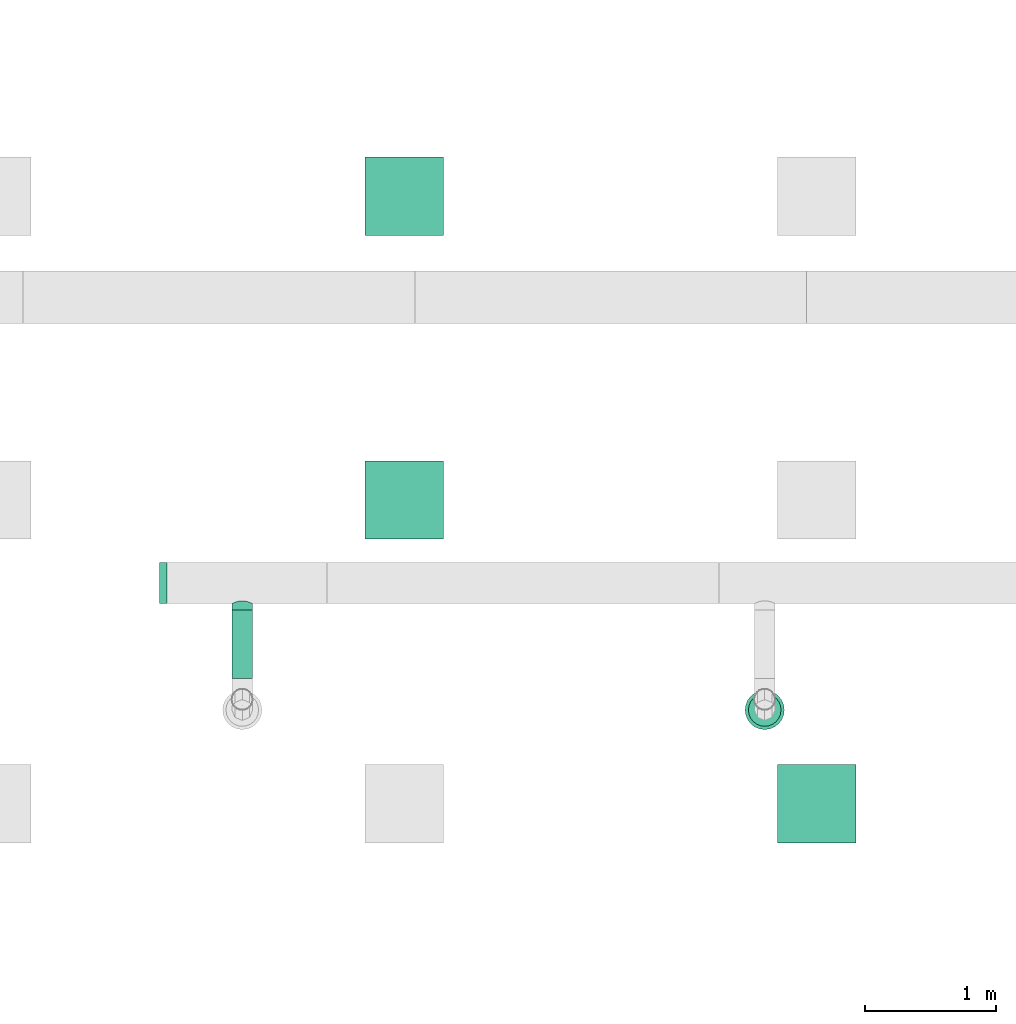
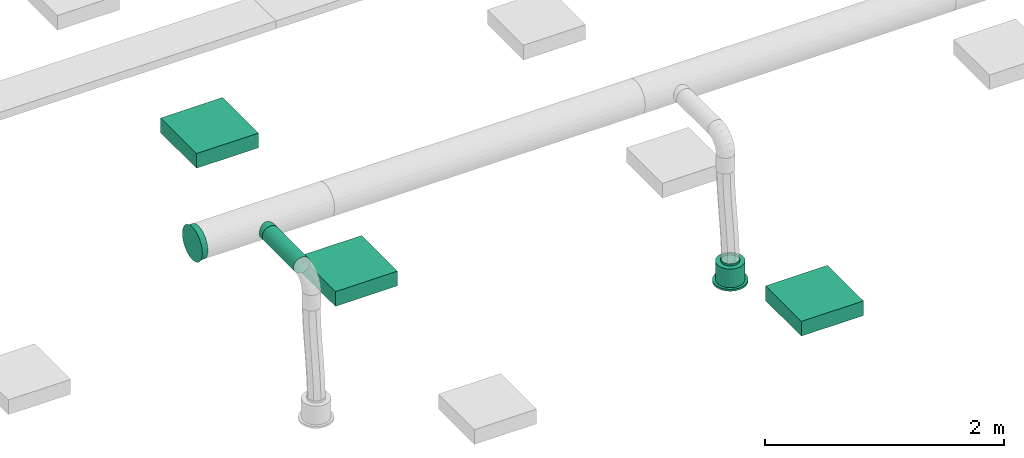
# One storey, part 18 of 374: 3 distribution elements, 2 flow segments, 1 flow fitting, 1 flow terminal.
"""IFC2X3 building model written with IfcOpenShell, lengths in metres."""

from ifc_helpers import new_model, si_unit, direction, frame, frame_2d, origin, place, context, subcontext, project, spatial, rectangle, extrude, open_shell, surface_model, source, transform, mapped, element, save


model = new_model("IFC2X3")

# Units and contexts
model_context = context("Model", 3, precision=1e-05, world=origin(), true_north=direction((-0.4480736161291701, 0.8939966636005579)))
body_context = subcontext(model_context, "Body", "Model", "MODEL_VIEW")
ifc_project = project(units=[si_unit("LENGTHUNIT", "METRE"), si_unit("AREAUNIT", "SQUARE_METRE"), si_unit("VOLUMEUNIT", "CUBIC_METRE"), si_unit("PLANEANGLEUNIT", "RADIAN"), si_unit("THERMODYNAMICTEMPERATUREUNIT", "KELVIN"), si_unit("MASSUNIT", "GRAM", prefix="KILO"), si_unit("TIMEUNIT", "SECOND")], contexts=[model_context])

# Site, building, storey
site_placement = place(None, origin())
site = spatial("IfcSite", under=ifc_project, at=site_placement, Name="Site 1", CompositionType="ELEMENT")
building_placement = place(site_placement, origin())
building = spatial("IfcBuilding", under=site, at=building_placement, Name="Undefined", CompositionType="ELEMENT")
storey_placement = place(building_placement, origin())
storey = spatial("IfcBuildingStorey", under=building, at=storey_placement, Name="Rez de chauss\x8ee", CompositionType="ELEMENT", Elevation=0.0)

# Flow terminal
shared_shape_1 = source(origin(), body_context, "Body", "SurfaceModel", [
    surface_model("IfcFaceBasedSurfaceModel", [(0.0, 0.0, 0.0), (0.03915785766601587, 0.0, 0.0), (0.03915785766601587, 0.020000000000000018, 0.0), (3.552713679e-15, 0.020000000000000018, 0.0), (0.07698144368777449, 0.0, -0.010134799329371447), (0.07698144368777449, 0.020000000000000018, -0.010134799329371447), (0.11089314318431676, 0.0, -0.02971372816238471), (0.11089314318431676, 0.020000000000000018, -0.02971372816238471), (0.13858192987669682, 0.0, -0.05740251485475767), (0.13858192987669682, 0.020000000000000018, -0.05740251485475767), (0.15816085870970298, 0.0, -0.09131421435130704), (0.15816085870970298, 0.020000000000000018, -0.09131421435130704), (0.16829565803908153, 0.0, -0.12913780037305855), (0.16829565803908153, 0.020000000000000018, -0.12913780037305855), (0.16829565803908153, 0.0, -0.16829565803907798), (0.16829565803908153, 0.020000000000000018, -0.16829565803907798), (0.15816085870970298, 0.0, -0.20611924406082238), (0.15816085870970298, 0.020000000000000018, -0.20611924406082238), (0.13858192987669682, 0.0, -0.24003094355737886), (0.13858192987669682, 0.020000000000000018, -0.24003094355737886), (0.11089314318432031, 0.0, -0.2677197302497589), (0.11089314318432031, 0.020000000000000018, -0.2677197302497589), (0.07698144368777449, 0.0, -0.2872986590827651), (0.07698144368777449, 0.020000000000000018, -0.2872986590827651), (0.039157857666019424, 0.0, -0.29743345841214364), (0.039157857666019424, 0.020000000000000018, -0.29743345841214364), (3.552713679e-15, 0.0, -0.29743345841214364), (3.552713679e-15, 0.020000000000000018, -0.29743345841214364), (-0.03782358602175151, 0.0, -0.2872986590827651), (-0.03782358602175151, 0.020000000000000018, -0.2872986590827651), (-0.07173528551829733, 0.0, -0.2677197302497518), (-0.07173528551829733, 0.020000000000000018, -0.2677197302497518), (-0.0994240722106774, 0.0, -0.24003094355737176), (-0.0994240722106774, 0.020000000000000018, -0.24003094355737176), (-0.11900300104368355, 0.0, -0.2061192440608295), (-0.11900300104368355, 0.020000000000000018, -0.2061192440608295), (-0.1291378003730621, 0.0, -0.16829565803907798), (-0.1291378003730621, 0.020000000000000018, -0.16829565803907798), (-0.1291378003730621, 0.0, -0.12913780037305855), (-0.1291378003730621, 0.020000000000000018, -0.12913780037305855), (-0.11900300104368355, 0.0, -0.09131421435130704), (-0.11900300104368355, 0.020000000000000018, -0.09131421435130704), (-0.0994240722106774, 0.0, -0.05740251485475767), (-0.0994240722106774, 0.020000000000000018, -0.05740251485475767), (-0.07173528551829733, 0.0, -0.029713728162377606), (-0.07173528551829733, 0.020000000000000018, -0.029713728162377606), (-0.03782358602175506, 0.0, -0.010134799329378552), (-0.03782358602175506, 0.020000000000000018, -0.010134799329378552), (0.019578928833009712, 0.0, -0.14871672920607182), (0.019578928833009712, 0.020000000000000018, -0.14871672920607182), (0.003263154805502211, 0.020000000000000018, -0.02478612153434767), (0.035894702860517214, 0.020000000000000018, -0.02478612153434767), (0.035894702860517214, 0.20999999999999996, -0.02478612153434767), (0.003263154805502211, 0.20999999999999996, -0.02478612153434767), (0.06741435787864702, 0.020000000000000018, -0.033231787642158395), (0.06741435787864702, 0.20999999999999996, -0.033231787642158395), (0.0956741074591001, 0.020000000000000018, -0.04954756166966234), (0.0956741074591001, 0.20999999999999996, -0.04954756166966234), (0.11874809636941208, 0.020000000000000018, -0.07262155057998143), (0.11874809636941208, 0.20999999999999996, -0.07262155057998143), (0.13506387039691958, 0.020000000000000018, -0.10088130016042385), (0.13506387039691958, 0.20999999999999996, -0.10088130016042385), (0.1435095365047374, 0.020000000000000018, -0.13240095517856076), (0.1435095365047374, 0.20999999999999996, -0.13240095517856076), (0.1435095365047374, 0.020000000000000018, -0.16503250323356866), (0.1435095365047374, 0.20999999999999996, -0.16503250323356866), (0.13506387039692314, 0.020000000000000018, -0.19655215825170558), (0.13506387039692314, 0.20999999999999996, -0.19655215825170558), (0.11874809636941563, 0.020000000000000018, -0.2248119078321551), (0.11874809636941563, 0.20999999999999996, -0.2248119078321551), (0.09567410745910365, 0.020000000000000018, -0.24788589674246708), (0.09567410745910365, 0.20999999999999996, -0.24788589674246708), (0.06741435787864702, 0.020000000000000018, -0.26420167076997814), (0.06741435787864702, 0.20999999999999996, -0.26420167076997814), (0.035894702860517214, 0.020000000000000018, -0.27264733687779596), (0.035894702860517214, 0.20999999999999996, -0.27264733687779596), (0.0032631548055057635, 0.020000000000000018, -0.27264733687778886), (0.0032631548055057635, 0.20999999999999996, -0.27264733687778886), (-0.028256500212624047, 0.020000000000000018, -0.26420167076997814), (-0.028256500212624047, 0.20999999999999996, -0.26420167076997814), (-0.05651624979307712, 0.020000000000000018, -0.2478858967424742), (-0.05651624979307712, 0.20999999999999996, -0.2478858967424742), (-0.07959023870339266, 0.020000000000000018, -0.2248119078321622), (-0.07959023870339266, 0.20999999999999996, -0.2248119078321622), (-0.09590601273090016, 0.020000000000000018, -0.19655215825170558), (-0.09590601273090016, 0.20999999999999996, -0.19655215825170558), (-0.10435167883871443, 0.020000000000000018, -0.16503250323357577), (-0.10435167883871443, 0.20999999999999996, -0.16503250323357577), (-0.10435167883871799, 0.020000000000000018, -0.13240095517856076), (-0.10435167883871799, 0.20999999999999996, -0.13240095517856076), (-0.09590601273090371, 0.020000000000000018, -0.10088130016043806), (-0.09590601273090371, 0.20999999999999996, -0.10088130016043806), (-0.07959023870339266, 0.020000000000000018, -0.07262155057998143), (-0.07959023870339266, 0.20999999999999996, -0.07262155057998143), (-0.056516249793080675, 0.020000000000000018, -0.04954756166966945), (-0.056516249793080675, 0.20999999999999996, -0.04954756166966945), (-0.028256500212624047, 0.020000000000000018, -0.033231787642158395), (-0.028256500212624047, 0.20999999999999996, -0.033231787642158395), (0.019578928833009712, 0.20999999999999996, -0.14871672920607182), (0.009136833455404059, 0.20999999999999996, -0.06940114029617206), (0.030021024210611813, 0.20999999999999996, -0.06940114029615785), (0.030021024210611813, 0.22999999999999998, -0.06940114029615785), (0.009136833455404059, 0.22999999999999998, -0.06940114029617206), (0.05019360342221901, 0.20999999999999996, -0.07480636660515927), (0.05019360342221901, 0.22999999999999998, -0.07480636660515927), (0.06827984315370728, 0.20999999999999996, -0.08524846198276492), (0.06827984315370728, 0.22999999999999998, -0.08524846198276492), (0.0830471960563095, 0.20999999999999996, -0.10001581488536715), (0.0830471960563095, 0.22999999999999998, -0.10001581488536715), (0.0934892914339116, 0.20999999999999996, -0.11810205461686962), (0.0934892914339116, 0.22999999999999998, -0.11810205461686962), (0.09889451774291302, 0.20999999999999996, -0.13827463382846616), (0.09889451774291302, 0.22999999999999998, -0.13827463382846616), (0.09889451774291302, 0.20999999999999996, -0.15915882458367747), (0.09889451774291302, 0.22999999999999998, -0.15915882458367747), (0.09348929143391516, 0.20999999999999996, -0.179331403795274), (0.09348929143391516, 0.22999999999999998, -0.179331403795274), (0.0830471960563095, 0.20999999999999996, -0.19741764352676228), (0.0830471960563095, 0.22999999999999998, -0.19741764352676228), (0.06827984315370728, 0.20999999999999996, -0.2121849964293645), (0.06827984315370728, 0.22999999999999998, -0.2121849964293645), (0.05019360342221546, 0.20999999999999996, -0.22262709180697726), (0.05019360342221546, 0.22999999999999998, -0.22262709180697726), (0.030021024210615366, 0.20999999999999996, -0.22803231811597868), (0.030021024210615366, 0.22999999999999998, -0.22803231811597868), (0.009136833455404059, 0.20999999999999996, -0.22803231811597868), (0.009136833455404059, 0.22999999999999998, -0.22803231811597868), (-0.011035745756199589, 0.20999999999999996, -0.22262709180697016), (-0.011035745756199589, 0.22999999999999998, -0.22262709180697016), (-0.0291219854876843, 0.20999999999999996, -0.2121849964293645), (-0.0291219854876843, 0.22999999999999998, -0.2121849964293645), (-0.043889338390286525, 0.20999999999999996, -0.19741764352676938), (-0.043889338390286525, 0.22999999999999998, -0.19741764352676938), (-0.05433143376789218, 0.20999999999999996, -0.17933140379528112), (-0.05433143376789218, 0.22999999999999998, -0.17933140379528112), (-0.05973666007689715, 0.20999999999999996, -0.15915882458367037), (-0.05973666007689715, 0.22999999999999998, -0.15915882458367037), (-0.0597366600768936, 0.20999999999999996, -0.13827463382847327), (-0.0597366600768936, 0.22999999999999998, -0.13827463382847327), (-0.05433143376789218, 0.20999999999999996, -0.11810205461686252), (-0.05433143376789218, 0.22999999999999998, -0.11810205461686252), (-0.043889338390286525, 0.20999999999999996, -0.10001581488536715), (-0.043889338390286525, 0.22999999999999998, -0.10001581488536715), (-0.02912198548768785, 0.20999999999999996, -0.08524846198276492), (-0.02912198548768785, 0.22999999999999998, -0.08524846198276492), (-0.011035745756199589, 0.20999999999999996, -0.07480636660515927), (-0.011035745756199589, 0.22999999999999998, -0.07480636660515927)], [open_shell([[[0, 1, 2, 3]], [[1, 4, 5, 2]], [[4, 6, 7, 5]], [[6, 8, 9, 7]], [[8, 10, 11, 9]], [[10, 12, 13, 11]], [[12, 14, 15, 13]], [[14, 16, 17, 15]], [[16, 18, 19, 17]], [[18, 20, 21, 19]], [[20, 22, 23, 21]], [[22, 24, 25, 23]], [[24, 26, 27, 25]], [[26, 28, 29, 27]], [[28, 30, 31, 29]], [[30, 32, 33, 31]], [[32, 34, 35, 33]], [[34, 36, 37, 35]], [[36, 38, 39, 37]], [[38, 40, 41, 39]], [[40, 42, 43, 41]], [[42, 44, 45, 43]], [[44, 46, 47, 45]], [[46, 0, 3, 47]], [[48, 1, 0]], [[48, 4, 1]], [[48, 6, 4]], [[48, 8, 6]], [[48, 10, 8]], [[48, 12, 10]], [[48, 14, 12]], [[48, 16, 14]], [[48, 18, 16]], [[48, 20, 18]], [[48, 22, 20]], [[48, 24, 22]], [[48, 26, 24]], [[48, 28, 26]], [[48, 30, 28]], [[48, 32, 30]], [[48, 34, 32]], [[48, 36, 34]], [[48, 38, 36]], [[48, 40, 38]], [[48, 42, 40]], [[48, 44, 42]], [[48, 46, 44]], [[48, 0, 46]], [[49, 47, 3]], [[49, 45, 47]], [[49, 43, 45]], [[49, 41, 43]], [[49, 39, 41]], [[49, 37, 39]], [[49, 35, 37]], [[49, 33, 35]], [[49, 31, 33]], [[49, 29, 31]], [[49, 27, 29]], [[49, 25, 27]], [[49, 23, 25]], [[49, 21, 23]], [[49, 19, 21]], [[49, 17, 19]], [[49, 15, 17]], [[49, 13, 15]], [[49, 11, 13]], [[49, 9, 11]], [[49, 7, 9]], [[49, 5, 7]], [[49, 2, 5]], [[49, 3, 2]], [[50, 51, 52, 53]], [[51, 54, 55, 52]], [[54, 56, 57, 55]], [[56, 58, 59, 57]], [[58, 60, 61, 59]], [[60, 62, 63, 61]], [[62, 64, 65, 63]], [[64, 66, 67, 65]], [[66, 68, 69, 67]], [[68, 70, 71, 69]], [[70, 72, 73, 71]], [[72, 74, 75, 73]], [[74, 76, 77, 75]], [[76, 78, 79, 77]], [[78, 80, 81, 79]], [[80, 82, 83, 81]], [[82, 84, 85, 83]], [[84, 86, 87, 85]], [[86, 88, 89, 87]], [[88, 90, 91, 89]], [[90, 92, 93, 91]], [[92, 94, 95, 93]], [[94, 96, 97, 95]], [[96, 50, 53, 97]], [[49, 51, 50]], [[49, 54, 51]], [[49, 56, 54]], [[49, 58, 56]], [[49, 60, 58]], [[49, 62, 60]], [[49, 64, 62]], [[49, 66, 64]], [[49, 68, 66]], [[49, 70, 68]], [[49, 72, 70]], [[49, 74, 72]], [[49, 76, 74]], [[49, 78, 76]], [[49, 80, 78]], [[49, 82, 80]], [[49, 84, 82]], [[49, 86, 84]], [[49, 88, 86]], [[49, 90, 88]], [[49, 92, 90]], [[49, 94, 92]], [[49, 96, 94]], [[49, 50, 96]], [[98, 97, 53]], [[98, 95, 97]], [[98, 93, 95]], [[98, 91, 93]], [[98, 89, 91]], [[98, 87, 89]], [[98, 85, 87]], [[98, 83, 85]], [[98, 81, 83]], [[98, 79, 81]], [[98, 77, 79]], [[98, 75, 77]], [[98, 73, 75]], [[98, 71, 73]], [[98, 69, 71]], [[98, 67, 69]], [[98, 65, 67]], [[98, 63, 65]], [[98, 61, 63]], [[98, 59, 61]], [[98, 57, 59]], [[98, 55, 57]], [[98, 52, 55]], [[98, 53, 52]], [[99, 100, 101, 102]], [[100, 103, 104, 101]], [[103, 105, 106, 104]], [[105, 107, 108, 106]], [[107, 109, 110, 108]], [[109, 111, 112, 110]], [[111, 113, 114, 112]], [[113, 115, 116, 114]], [[115, 117, 118, 116]], [[117, 119, 120, 118]], [[119, 121, 122, 120]], [[121, 123, 124, 122]], [[123, 125, 126, 124]], [[125, 127, 128, 126]], [[127, 129, 130, 128]], [[129, 131, 132, 130]], [[131, 133, 134, 132]], [[133, 135, 136, 134]], [[135, 137, 138, 136]], [[137, 139, 140, 138]], [[139, 141, 142, 140]], [[141, 143, 144, 142]], [[143, 145, 146, 144]], [[145, 99, 102, 146]]])]),
])
flow_terminal_placement = place(storey_placement, origin())
element("IfcFlowTerminal", 1, at=flow_terminal_placement, inside=storey, Name="Air diffuseur - bouche", ObjectType="Air diffuseur - bouche", context=body_context, shape_type="MappedRepresentation", body=[
    mapped(shared_shape_1, transform((10.290000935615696, 2.0299997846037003, 2.38), x_axis=(-0.9914448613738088, -0.13052619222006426, 0.0), y_axis=(0.0, 0.0, 1.0), z_axis=(-0.13052619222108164, 0.9914448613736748, 0.0))),
])

# Flow segment
shared_shape_2 = source(origin(), body_context, "Body", "SurfaceModel", [
    surface_model("IfcFaceBasedSurfaceModel", [(0.0013669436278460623, 0.02088419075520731, 0.0), (0.0, 0.0, 0.0), (0.05136694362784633, -8.8817842e-16, 0.0), (0.05136694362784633, 0.02088419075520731, 0.0), (-0.0037970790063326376, -0.020172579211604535, -0.005405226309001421), (0.05136694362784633, -0.020172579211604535, -0.005405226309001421), (-0.009142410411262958, -0.03825881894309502, -0.015847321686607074), (0.05136694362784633, -0.03825881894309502, -0.015847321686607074), (-0.014689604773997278, -0.05302617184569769, -0.030614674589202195), (0.05136694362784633, -0.05302617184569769, -0.030614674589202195), (-0.018892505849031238, -0.06346826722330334, -0.04870091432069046), (0.05136694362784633, -0.06346826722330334, -0.04870091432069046), (-0.020463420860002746, -0.06887349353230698, -0.0688734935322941), (0.05136694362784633, -0.06887349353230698, -0.0688734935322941), (-0.018892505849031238, -0.06887349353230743, -0.08975768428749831), (0.05136694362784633, -0.06887349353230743, -0.08975768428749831), (-0.014689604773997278, -0.06346826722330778, -0.10993026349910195), (0.05136694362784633, -0.06346826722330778, -0.10993026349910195), (-0.009142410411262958, -0.05302617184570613, -0.12801650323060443), (0.05136694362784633, -0.05302617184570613, -0.12801650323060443), (-0.0037970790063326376, -0.03825881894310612, -0.14278385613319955), (0.05136694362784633, -0.03825881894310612, -0.14278385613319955), (0.0, -0.020172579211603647, -0.15322595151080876), (0.05136694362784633, -0.020172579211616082, -0.1532259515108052), (0.0013669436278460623, -1.3766765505e-14, -0.15863117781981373), (0.05136694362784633, -1.3766765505e-14, -0.15863117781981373), (0.0, 0.020884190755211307, -0.15863117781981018), (0.05136694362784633, 0.02088419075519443, -0.15863117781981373), (-0.0037970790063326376, 0.041056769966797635, -0.1532259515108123), (0.05136694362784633, 0.041056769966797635, -0.1532259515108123), (-0.009142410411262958, 0.05914300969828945, -0.14278385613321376), (0.05136694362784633, 0.05914300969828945, -0.14278385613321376), (-0.014689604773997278, 0.07391036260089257, -0.12801650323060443), (0.05136694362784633, 0.07391036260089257, -0.12801650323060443), (-0.018892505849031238, 0.08435245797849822, -0.10993026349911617), (0.05136694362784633, 0.08435245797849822, -0.10993026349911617), (-0.020463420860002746, 0.08975768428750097, -0.08975768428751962), (0.05136694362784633, 0.08975768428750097, -0.08975768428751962), (-0.018892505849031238, 0.0897576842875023, -0.06887349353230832), (0.05136694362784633, 0.0897576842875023, -0.06887349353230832), (-0.014689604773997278, 0.08435245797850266, -0.04870091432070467), (0.05136694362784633, 0.08435245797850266, -0.04870091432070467), (-0.009142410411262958, 0.07391036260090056, -0.030614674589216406), (0.05136694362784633, 0.07391036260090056, -0.030614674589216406), (-0.0037970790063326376, 0.05914300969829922, -0.01584732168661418), (0.05136694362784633, 0.05914300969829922, -0.01584732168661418), (0.0, 0.04105676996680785, -0.005405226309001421), (0.05136694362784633, 0.04105676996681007, -0.005405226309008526)], [open_shell([[[0, 1, 2, 3]], [[1, 4, 5, 2]], [[4, 6, 7, 5]], [[6, 8, 9, 7]], [[8, 10, 11, 9]], [[10, 12, 13, 11]], [[12, 14, 15, 13]], [[14, 16, 17, 15]], [[16, 18, 19, 17]], [[18, 20, 21, 19]], [[20, 22, 23, 21]], [[22, 24, 25, 23]], [[24, 26, 27, 25]], [[26, 28, 29, 27]], [[28, 30, 31, 29]], [[30, 32, 33, 31]], [[32, 34, 35, 33]], [[34, 36, 37, 35]], [[36, 38, 39, 37]], [[38, 40, 41, 39]], [[40, 42, 43, 41]], [[42, 44, 45, 43]], [[44, 46, 47, 45]], [[46, 0, 3, 47]]])]),
])
flow_segment_1_placement = place(storey_placement, origin())
element("IfcFlowSegment", 2, at=flow_segment_1_placement, inside=storey, Name="Piquage équerre circulaire", ObjectType="Piquage équerre circulaire", context=body_context, shape_type="MappedRepresentation", body=[
    mapped(shared_shape_2, transform((6.2127268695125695, 2.6951646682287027, 3.779294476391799), x_axis=(0.0, -1.0, 0.0), y_axis=(-0.13052619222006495, 0.0, 0.9914448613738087), z_axis=(-0.9914448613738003, 0.0, -0.13052619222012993))),
])

# Flow fitting
shared_shape_3 = source(origin(), body_context, "Body", "SurfaceModel", [
    surface_model("IfcFaceBasedSurfaceModel", [(0.0, 0.04111575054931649, 0.0), (0.0, 0.0, 0.0), (0.05930000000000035, 0.0, 0.0), (0.05930000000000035, 0.04111575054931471, 0.0), (0.0, -0.03971476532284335, -0.010641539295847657), (0.05930000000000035, -0.039714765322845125, -0.010641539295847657), (0.0, -0.0753220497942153, -0.0311994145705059), (0.05930000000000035, -0.07532204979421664, -0.0311994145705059), (0.0, -0.10439527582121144, -0.060272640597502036), (0.05930000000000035, -0.10439527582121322, -0.06027264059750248), (0.0, -0.12495315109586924, -0.09587992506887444), (0.05930000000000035, -0.12495315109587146, -0.095879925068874), (0.0, -0.13559469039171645, -0.13559469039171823), (0.05930000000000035, -0.13559469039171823, -0.13559469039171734), (0.0, -0.135594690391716, -0.17671044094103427), (0.05930000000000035, -0.13559469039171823, -0.17671044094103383), (0.0, -0.1249531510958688, -0.21642520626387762), (0.05930000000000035, -0.12495315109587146, -0.21642520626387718), (0.0, -0.10439527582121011, -0.2520324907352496), (0.05930000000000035, -0.10439527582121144, -0.2520324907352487), (0.0, -0.07532204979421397, -0.2811057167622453), (0.05930000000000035, -0.07532204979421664, -0.2811057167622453), (0.0, -0.039714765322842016, -0.3016635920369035), (0.05930000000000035, -0.03971476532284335, -0.3016635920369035), (0.0, 1.776356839e-15, -0.3123051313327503), (0.05930000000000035, -1.776356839e-15, -0.3123051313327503), (0.0, 0.041115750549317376, -0.31230513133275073), (0.05930000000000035, 0.04111575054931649, -0.3123051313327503), (0.0, 0.08083051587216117, -0.30166359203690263), (0.05930000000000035, 0.08083051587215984, -0.3016635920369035), (0.0, 0.11643780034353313, -0.28110571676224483), (0.05930000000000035, 0.11643780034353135, -0.2811057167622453), (0.0, 0.14551102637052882, -0.25203249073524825), (0.05930000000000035, 0.14551102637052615, -0.2520324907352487), (0.0, 0.16606890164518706, -0.2164252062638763), (0.05930000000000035, 0.1660689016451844, -0.2164252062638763), (0.0, 0.17671044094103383, -0.1767104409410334), (0.05930000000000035, 0.17671044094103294, -0.17671044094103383), (0.0, 0.17671044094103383, -0.1355946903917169), (0.05930000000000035, 0.17671044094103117, -0.13559469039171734), (0.0, 0.16606890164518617, -0.09587992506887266), (0.05930000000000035, 0.1660689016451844, -0.095879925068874), (0.0, 0.14551102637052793, -0.06027264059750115), (0.05930000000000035, 0.14551102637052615, -0.06027264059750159), (0.0, 0.1164378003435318, -0.031199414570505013), (0.05930000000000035, 0.11643780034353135, -0.0311994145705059), (0.0, 0.08083051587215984, -0.010641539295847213), (0.05930000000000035, 0.08083051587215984, -0.010641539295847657), (0.05930000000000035, 0.04248627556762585, 0.010410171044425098), (0.05930000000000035, -0.0013705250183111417, 0.01041017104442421), (0.060000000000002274, -0.0013705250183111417, 0.01041017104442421), (0.060000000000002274, 0.04248627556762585, 0.010410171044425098), (0.05930000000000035, -0.0437329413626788, -0.0009408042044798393), (0.060000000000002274, -0.0437329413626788, -0.0009408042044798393), (0.05930000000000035, -0.08171404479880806, -0.022869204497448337), (0.060000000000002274, -0.08171404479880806, -0.022869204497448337), (0.05930000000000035, -0.1127254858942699, -0.05388064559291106), (0.060000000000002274, -0.1127254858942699, -0.05388064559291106), (0.05930000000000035, -0.13465388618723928, -0.0918617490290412), (0.060000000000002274, -0.13465388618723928, -0.0918617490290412), (0.05930000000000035, -0.14600486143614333, -0.1342241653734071), (0.060000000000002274, -0.14600486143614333, -0.1342241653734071), (0.05930000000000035, -0.14600486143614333, -0.17808096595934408), (0.060000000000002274, -0.14600486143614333, -0.17808096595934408), (0.05930000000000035, -0.1346538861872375, -0.22044338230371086), (0.060000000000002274, -0.1346538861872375, -0.22044338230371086), (0.05930000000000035, -0.1127254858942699, -0.258424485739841), (0.060000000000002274, -0.1127254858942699, -0.258424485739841), (0.05930000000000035, -0.08171404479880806, -0.2894359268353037), (0.060000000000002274, -0.08171404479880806, -0.2894359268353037), (0.05930000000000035, -0.043732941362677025, -0.31136432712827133), (0.060000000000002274, -0.043732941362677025, -0.31136432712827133), (0.05930000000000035, -0.0013705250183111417, -0.3227153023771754), (0.060000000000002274, -0.0013705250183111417, -0.3227153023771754), (0.05930000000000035, 0.04248627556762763, -0.3227153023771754), (0.060000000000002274, 0.04248627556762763, -0.3227153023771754), (0.05930000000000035, 0.08484869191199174, -0.31136432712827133), (0.060000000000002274, 0.08484869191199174, -0.31136432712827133), (0.05930000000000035, 0.12282979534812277, -0.28943592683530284), (0.060000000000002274, 0.12282979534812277, -0.28943592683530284), (0.05930000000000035, 0.1538412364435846, -0.2584244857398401), (0.060000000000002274, 0.1538412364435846, -0.2584244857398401), (0.05930000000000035, 0.175769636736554, -0.22044338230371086), (0.060000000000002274, 0.175769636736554, -0.22044338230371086), (0.05930000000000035, 0.18712061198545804, -0.17808096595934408), (0.060000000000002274, 0.18712061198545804, -0.17808096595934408), (0.05930000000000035, 0.18712061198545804, -0.1342241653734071), (0.060000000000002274, 0.18712061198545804, -0.1342241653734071), (0.05930000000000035, 0.17576963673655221, -0.09186174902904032), (0.060000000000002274, 0.17576963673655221, -0.09186174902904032), (0.05930000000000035, 0.1538412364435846, -0.05388064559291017), (0.060000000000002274, 0.1538412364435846, -0.05388064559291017), (0.05930000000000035, 0.122829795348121, -0.02286920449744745), (0.060000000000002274, 0.122829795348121, -0.02286920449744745), (0.05930000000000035, 0.08484869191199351, -0.0009408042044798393), (0.060000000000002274, 0.08484869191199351, -0.0009408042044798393), (0.05930000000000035, 0.020557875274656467, -0.1561525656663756), (0.060000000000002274, 0.020557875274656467, -0.1561525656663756)], [open_shell([[[0, 1, 2, 3]], [[1, 4, 5, 2]], [[4, 6, 7, 5]], [[6, 8, 9, 7]], [[8, 10, 11, 9]], [[10, 12, 13, 11]], [[12, 14, 15, 13]], [[14, 16, 17, 15]], [[16, 18, 19, 17]], [[18, 20, 21, 19]], [[20, 22, 23, 21]], [[22, 24, 25, 23]], [[24, 26, 27, 25]], [[26, 28, 29, 27]], [[28, 30, 31, 29]], [[30, 32, 33, 31]], [[32, 34, 35, 33]], [[34, 36, 37, 35]], [[36, 38, 39, 37]], [[38, 40, 41, 39]], [[40, 42, 43, 41]], [[42, 44, 45, 43]], [[44, 46, 47, 45]], [[46, 0, 3, 47]], [[48, 49, 50, 51]], [[49, 52, 53, 50]], [[52, 54, 55, 53]], [[54, 56, 57, 55]], [[56, 58, 59, 57]], [[58, 60, 61, 59]], [[60, 62, 63, 61]], [[62, 64, 65, 63]], [[64, 66, 67, 65]], [[66, 68, 69, 67]], [[68, 70, 71, 69]], [[70, 72, 73, 71]], [[72, 74, 75, 73]], [[74, 76, 77, 75]], [[76, 78, 79, 77]], [[78, 80, 81, 79]], [[80, 82, 83, 81]], [[82, 84, 85, 83]], [[84, 86, 87, 85]], [[86, 88, 89, 87]], [[88, 90, 91, 89]], [[90, 92, 93, 91]], [[92, 94, 95, 93]], [[94, 48, 51, 95]], [[96, 49, 48]], [[96, 52, 49]], [[96, 54, 52]], [[96, 56, 54]], [[96, 58, 56]], [[96, 60, 58]], [[96, 62, 60]], [[96, 64, 62]], [[96, 66, 64]], [[96, 68, 66]], [[96, 70, 68]], [[96, 72, 70]], [[96, 74, 72]], [[96, 76, 74]], [[96, 78, 76]], [[96, 80, 78]], [[96, 82, 80]], [[96, 84, 82]], [[96, 86, 84]], [[96, 88, 86]], [[96, 90, 88]], [[96, 92, 90]], [[96, 94, 92]], [[96, 48, 94]], [[97, 95, 51]], [[97, 93, 95]], [[97, 91, 93]], [[97, 89, 91]], [[97, 87, 89]], [[97, 85, 87]], [[97, 83, 85]], [[97, 81, 83]], [[97, 79, 81]], [[97, 77, 79]], [[97, 75, 77]], [[97, 73, 75]], [[97, 71, 73]], [[97, 69, 71]], [[97, 67, 69]], [[97, 65, 67]], [[97, 63, 65]], [[97, 61, 63]], [[97, 59, 61]], [[97, 57, 59]], [[97, 55, 57]], [[97, 53, 55]], [[97, 50, 53]], [[97, 51, 50]]])]),
])
flow_fitting_placement = place(storey_placement, origin())
element("IfcFlowFitting", 3, at=flow_fitting_placement, inside=storey, Name="Enddeckel", ObjectType="Enddeckel", context=body_context, shape_type="MappedRepresentation", body=[
    mapped(shared_shape_3, transform((5.715015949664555, 2.892061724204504, 3.952133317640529), x_axis=(-1.0, 0.0, 0.0), y_axis=(7.266545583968e-12, -0.9914448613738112, 0.13052619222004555), z_axis=(0.0, 0.13052619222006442, 0.9914448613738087))),
])

# Flow segment
shared_shape_4 = source(origin(), body_context, "Body", "SurfaceModel", [
    surface_model("IfcFaceBasedSurfaceModel", [(0.0, 0.020884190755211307, 0.0), (0.0, 0.0, 0.0), (0.5237979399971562, 0.0, -4.4408921e-16), (0.5237979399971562, 0.020884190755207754, -4.4408921e-16), (0.0, -0.020172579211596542, -0.005405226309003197), (0.5237979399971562, -0.020172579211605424, -0.005405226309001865), (0.0, -0.03825881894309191, -0.015847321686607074), (0.5237979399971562, -0.038258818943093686, -0.01584732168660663), (0.0, -0.05302617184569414, -0.0306146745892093), (0.5237979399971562, -0.05302617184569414, -0.03061467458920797), (0.0, -0.06346826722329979, -0.04870091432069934), (0.5237979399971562, -0.06346826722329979, -0.04870091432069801), (0.0, -0.06887349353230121, -0.06887349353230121), (0.5237979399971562, -0.06887349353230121, -0.06887349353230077), (0.0, -0.06887349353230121, -0.08975768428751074), (0.5237979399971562, -0.06887349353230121, -0.08975768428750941), (0.0, -0.06346826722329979, -0.10993026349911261), (0.5237979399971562, -0.06346826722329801, -0.10993026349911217), (0.0, -0.05302617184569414, -0.12801650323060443), (0.5237979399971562, -0.05302617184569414, -0.1280165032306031), (0.0, -0.038258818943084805, -0.14278385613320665), (0.5237979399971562, -0.038258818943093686, -0.14278385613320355), (0.0, -0.020172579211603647, -0.15322595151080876), (0.5237979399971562, -0.02017257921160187, -0.15322595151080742), (0.0, 7.105427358e-15, -0.15863117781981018), (0.5237979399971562, 0.0, -0.15863117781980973), (0.0, 0.020884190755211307, -0.15863117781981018), (0.5237979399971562, 0.02088419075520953, -0.1586311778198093), (0.0, 0.04105676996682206, -0.15322595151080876), (0.5237979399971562, 0.0410567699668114, -0.15322595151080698), (0.0, 0.05914300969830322, -0.1427838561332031), (0.5237979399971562, 0.05914300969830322, -0.14278385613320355), (0.0, 0.07391036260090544, -0.12801650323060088), (0.5237979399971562, 0.07391036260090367, -0.12801650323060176), (0.0, 0.0843524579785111, -0.10993026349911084), (0.5237979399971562, 0.08435245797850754, -0.10993026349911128), (0.0, 0.08975768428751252, -0.08975768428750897), (0.5237979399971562, 0.08975768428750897, -0.08975768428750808), (0.0, 0.08975768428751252, -0.06887349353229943), (0.5237979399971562, 0.08975768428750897, -0.06887349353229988), (0.0, 0.0843524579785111, -0.048700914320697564), (0.5237979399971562, 0.08435245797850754, -0.04870091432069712), (0.0, 0.07391036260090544, -0.030614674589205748), (0.5237979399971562, 0.07391036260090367, -0.03061467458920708), (0.0, 0.05914300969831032, -0.015847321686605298), (0.5237979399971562, 0.059143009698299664, -0.015847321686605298), (0.0, 0.04105676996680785, -0.005405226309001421), (0.5237979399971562, 0.0410567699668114, -0.005405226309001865)], [open_shell([[[0, 1, 2, 3]], [[1, 4, 5, 2]], [[4, 6, 7, 5]], [[6, 8, 9, 7]], [[8, 10, 11, 9]], [[10, 12, 13, 11]], [[12, 14, 15, 13]], [[14, 16, 17, 15]], [[16, 18, 19, 17]], [[18, 20, 21, 19]], [[20, 22, 23, 21]], [[22, 24, 25, 23]], [[24, 26, 27, 25]], [[26, 28, 29, 27]], [[28, 30, 31, 29]], [[30, 32, 33, 31]], [[32, 34, 35, 33]], [[34, 36, 37, 35]], [[36, 38, 39, 37]], [[38, 40, 41, 39]], [[40, 42, 43, 41]], [[42, 44, 45, 43]], [[44, 46, 47, 45]], [[46, 0, 3, 47]]])]),
])
flow_segment_2_placement = place(storey_placement, origin())
element("IfcFlowSegment", 4, at=flow_segment_2_placement, inside=storey, Name="Tube", ObjectType="Tube", context=body_context, shape_type="MappedRepresentation", body=[
    mapped(shared_shape_4, transform((6.2692954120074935, 2.643797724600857, 3.877274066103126), x_axis=(0.0, -1.0, 0.0), y_axis=(0.9914448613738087, 0.0, 0.13052619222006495), z_axis=(-0.13052619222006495, 0.0, 0.9914448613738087))),
])

# Distribution elements
distribution_element_1_placement = place(storey_placement, origin())
element("IfcDistributionElement", 5, at=distribution_element_1_placement, inside=storey, Name="Decken-Rechteckleuchte mit Rahmen AP", ObjectType="Decken-Rechteckleuchte mit Rahmen AP", context=body_context, shape_type="SweptSolid", body=[
    extrude(rectangle(XDim=0.6000000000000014, YDim=0.6000000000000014, at=frame_2d((3.552713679e-15, 0.0), x_axis=(0.0, 1.0))), frame((7.531229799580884, 5.8125, 2.5500000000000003), z_axis=(0.0, 0.0, -1.0), x_axis=(1.0, 0.0, 0.0)), (0.0, 0.0, 1.0), 0.15),
])
distribution_element_2_placement = place(storey_placement, origin())
element("IfcDistributionElement", 6, at=distribution_element_2_placement, inside=storey, Name="Decken-Rechteckleuchte mit Rahmen AP", ObjectType="Decken-Rechteckleuchte mit Rahmen AP", context=body_context, shape_type="SweptSolid", body=[
    extrude(rectangle(XDim=0.6000000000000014, YDim=0.6000000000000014, at=frame_2d((3.552713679e-15, 0.0), x_axis=(0.0, 1.0))), frame((7.531229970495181, 3.4875, 2.5500000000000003), z_axis=(0.0, 0.0, -1.0), x_axis=(1.0, 0.0, 0.0)), (0.0, 0.0, 1.0), 0.15),
])
distribution_element_3_placement = place(storey_placement, origin())
element("IfcDistributionElement", 7, at=distribution_element_3_placement, inside=storey, Name="Decken-Rechteckleuchte mit Rahmen AP", ObjectType="Decken-Rechteckleuchte mit Rahmen AP", context=body_context, shape_type="SweptSolid", body=[
    extrude(rectangle(XDim=0.6000000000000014, YDim=0.6000000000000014, at=frame_2d((3.552713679e-15, 0.0), x_axis=(0.0, 1.0))), frame((10.689072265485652, 1.1625, 2.5500000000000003), z_axis=(0.0, 0.0, -1.0), x_axis=(1.0, 0.0, 0.0)), (0.0, 0.0, 1.0), 0.15),
])

save(model, "model.ifc")
